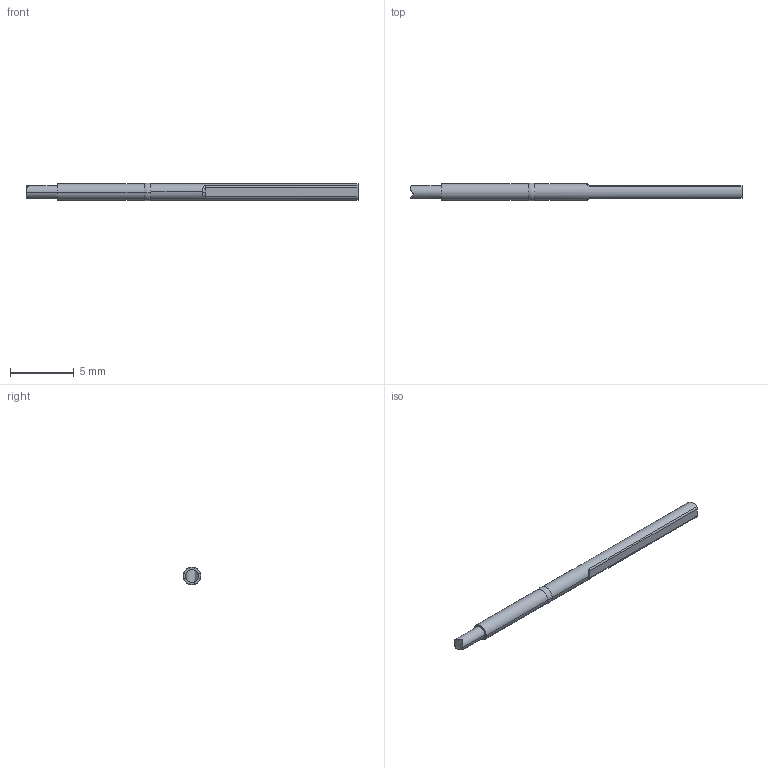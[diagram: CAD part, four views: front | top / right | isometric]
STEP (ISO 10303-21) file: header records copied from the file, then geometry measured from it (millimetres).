
FILE_DESCRIPTION((''),'2;1');
FILE_NAME('0000553699','2022-11-18T09:50:18',('11000969'),(''),'CREO PARAMETRIC BY PTC INC, 2020184','CREO PARAMETRIC BY PTC INC, 2020184','');
FILE_SCHEMA(('AUTOMOTIVE_DESIGN { 1 0 10303 214 1 1 1 1 }'));
Length unit declared in the file: millimetre
Products named in the file (1): 0000553699
Bounding box: 26.01 x 1.4 x 1.39 mm (x, y, z)
Volume: 28.8 mm3; surface area: 117.4 mm2
Topology: 1 solids, 1 shells, 34 faces, 76 edges, 46 vertices
Faces by surface type: cylinder 14, bspline 12, plane 5, sphere 2, extrusion 1
Entity records: 2101 total; most frequent: CARTESIAN_POINT 1083, ORIENTED_EDGE 152, DIRECTION 131, PRESENTATION_STYLE_ASSIGNMENT 77, STYLED_ITEM 77, CURVE_STYLE 76, EDGE_CURVE 76, AXIS2_PLACEMENT_3D 55
